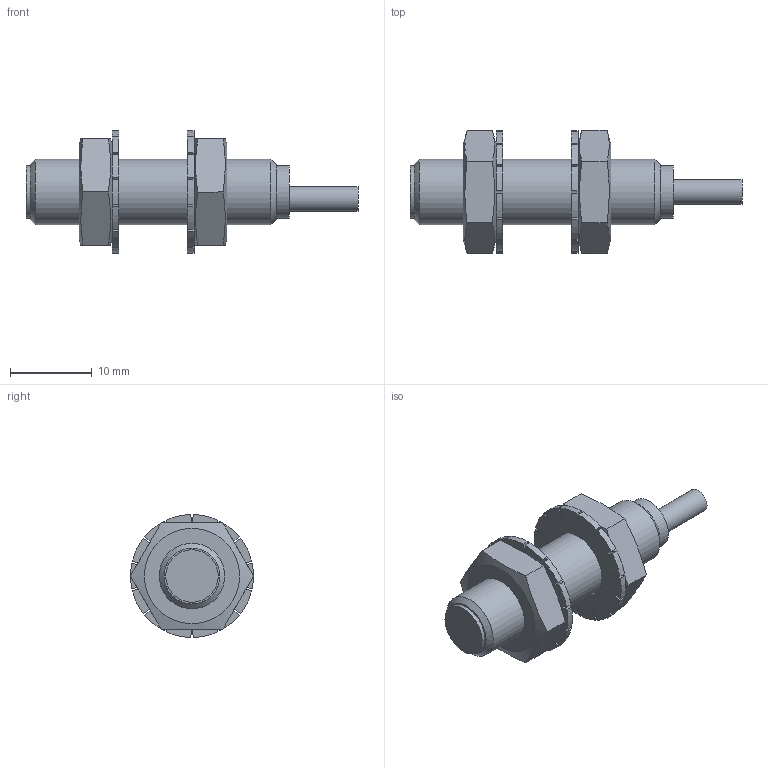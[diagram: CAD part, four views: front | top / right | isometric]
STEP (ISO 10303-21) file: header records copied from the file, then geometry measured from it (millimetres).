
FILE_DESCRIPTION (( 'STEP AP203' ), '1' );
FILE_NAME ('Bi-M08-X.step', '2018-12-27T15:32:23', ( '' ), ( '' ), 'SwSTEP 2.0', 'SolidWorks 2017', '' );
FILE_SCHEMA (( 'CONFIG_CONTROL_DESIGN' ));
Length unit declared in the file: millimetre
Products named in the file (1): Bi-M08-X
Bounding box: 40.5 x 15.01 x 15 mm (x, y, z)
Volume: 2737.1 mm3; surface area: 2635.4 mm2
Topology: 6 solids, 6 shells, 132 faces, 345 edges, 228 vertices
Faces by surface type: plane 83, cylinder 38, cone 11
Full cylindrical faces by diameter (mm): 3 x1, 6.1 x1, 6.2 x1, 6.4 x1, 6.45 x1, 6.917 x2, 8 x1, 8.4 x2
Entity records: 4019 total; most frequent: CARTESIAN_POINT 769, DIRECTION 646, ORIENTED_EDGE 636, EDGE_CURVE 318, VERTEX_POINT 222, AXIS2_PLACEMENT_3D 219, VECTOR 208, LINE 208
